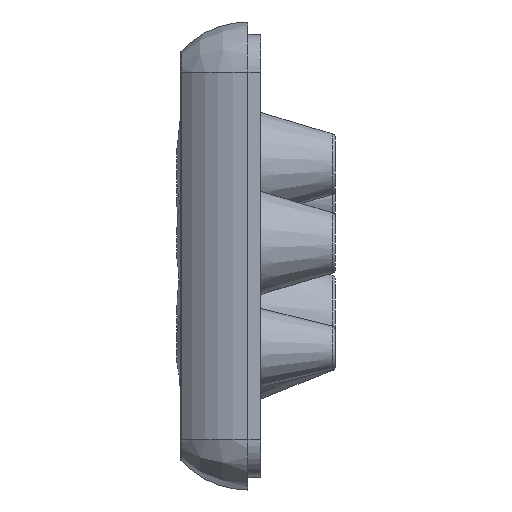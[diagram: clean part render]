
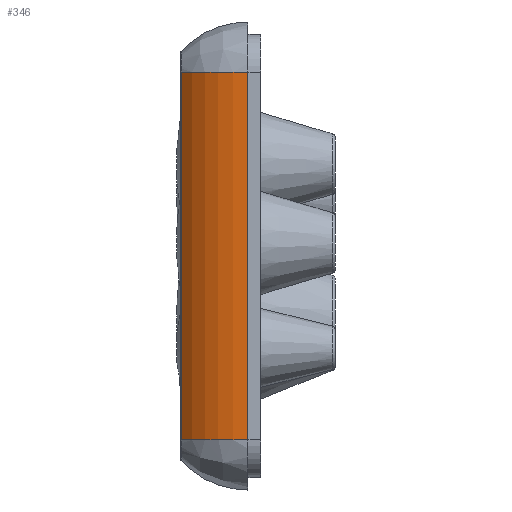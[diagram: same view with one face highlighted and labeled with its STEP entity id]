
A CAD part, left-side view. The second image highlights one B-rep face of the part: STEP entity #346.
In plain terms, the highlighted cylindrical face has radius 10.893 mm (diameter 21.786 mm), a partial arc.
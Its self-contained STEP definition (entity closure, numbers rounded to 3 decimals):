
#346 = ADVANCED_FACE( '', ( #819 ), #820, .T. );
#819 = FACE_OUTER_BOUND( '', #1523, .T. );
#820 = CYLINDRICAL_SURFACE( '', #1524, 10.893 );
#1523 = EDGE_LOOP( '', ( #2421, #2422, #2423, #2424 ) );
#1524 = AXIS2_PLACEMENT_3D( '', #2425, #2426, #2427 );
#2421 = ORIENTED_EDGE( '', *, *, #3338, .T. );
#2422 = ORIENTED_EDGE( '', *, *, #3423, .T. );
#2423 = ORIENTED_EDGE( '', *, *, #3381, .F. );
#2424 = ORIENTED_EDGE( '', *, *, #3225, .T. );
#2425 = CARTESIAN_POINT( '', ( -66.107, 0., 22. ) );
#2426 = DIRECTION( '', ( 0., 0., 1. ) );
#2427 = DIRECTION( '', ( -1., 0., 0. ) );
#3225 = EDGE_CURVE( '', #3721, #3718, #3722, .T. );
#3338 = EDGE_CURVE( '', #3718, #3901, #3903, .T. );
#3381 = EDGE_CURVE( '', #3721, #3969, #3970, .T. );
#3423 = EDGE_CURVE( '', #3901, #3969, #4032, .T. );
#3718 = VERTEX_POINT( '', #4444 );
#3721 = VERTEX_POINT( '', #4448 );
#3722 = LINE( '', #4449, #4450 );
#3901 = VERTEX_POINT( '', #4697 );
#3903 = CIRCLE( '', #4699, 10.893 );
#3969 = VERTEX_POINT( '', #4801 );
#3970 = CIRCLE( '', #4802, 10.893 );
#4032 = LINE( '', #4888, #4889 );
#4444 = CARTESIAN_POINT( '', ( -73.5, 8., -22. ) );
#4448 = CARTESIAN_POINT( '', ( -73.5, 8., 22. ) );
#4449 = CARTESIAN_POINT( '', ( -73.5, 8., 22. ) );
#4450 = VECTOR( '', #5318, 1000. );
#4697 = CARTESIAN_POINT( '', ( -77., 0., -22. ) );
#4699 = AXIS2_PLACEMENT_3D( '', #5488, #5489, #5490 );
#4801 = CARTESIAN_POINT( '', ( -77., 0., 22. ) );
#4802 = AXIS2_PLACEMENT_3D( '', #5552, #5553, #5554 );
#4888 = CARTESIAN_POINT( '', ( -77., 0., -22. ) );
#4889 = VECTOR( '', #5616, 1000. );
#5318 = DIRECTION( '', ( 0., 0., -1. ) );
#5488 = CARTESIAN_POINT( '', ( -66.107, 0., -22. ) );
#5489 = DIRECTION( '', ( 0., 0., 1. ) );
#5490 = DIRECTION( '', ( 1., 0., 0. ) );
#5552 = CARTESIAN_POINT( '', ( -66.107, 0., 22. ) );
#5553 = DIRECTION( '', ( 0., 0., 1. ) );
#5554 = DIRECTION( '', ( 1., 0., 0. ) );
#5616 = DIRECTION( '', ( 0., 0., 1. ) );
